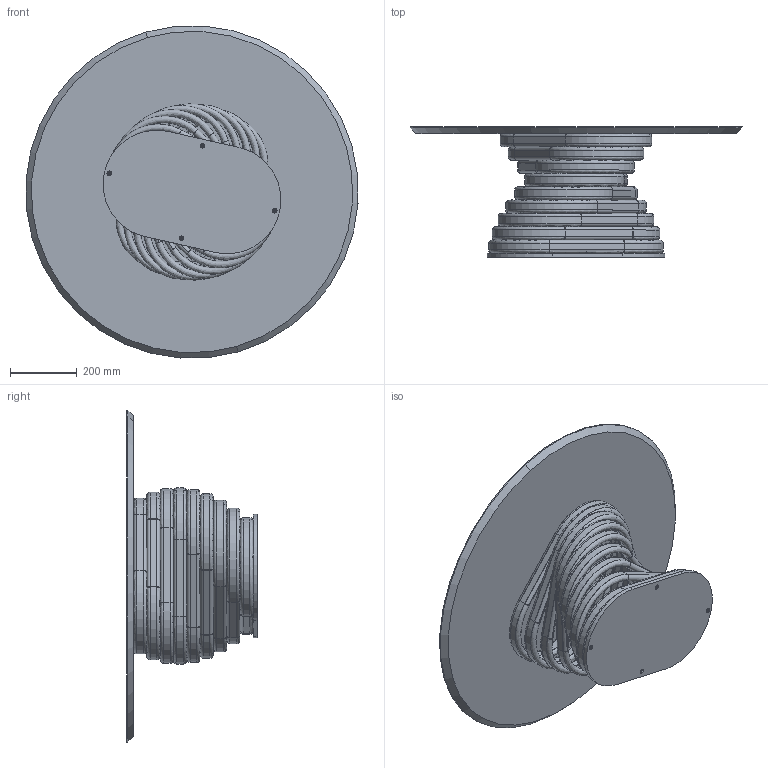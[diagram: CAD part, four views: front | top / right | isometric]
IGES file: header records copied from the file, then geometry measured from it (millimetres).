
Start section: SolidWorks IGES file using analytic representation for surfaces
Global section: file name: Y:\eforma\TECNICO\SOLIDWORKS\E-FORMA\2-TAVOLINI\ROTOLO LOW\02 parts\RL03W.IGS; native system: SolidWorks 2022; preprocessor: SolidWorks 2022; author: eforma.tech; date: 240806.143557; units: millimetre
Bounding box: 997.66 x 392 x 997.66 mm (x, y, z)
Volume: 19494958 mm3; surface area: 4310235 mm2
Topology: 40 solids, 40 shells, 460 faces, 1122 edges, 736 vertices
Faces by surface type: revolution 288, plane 170, bspline 2
